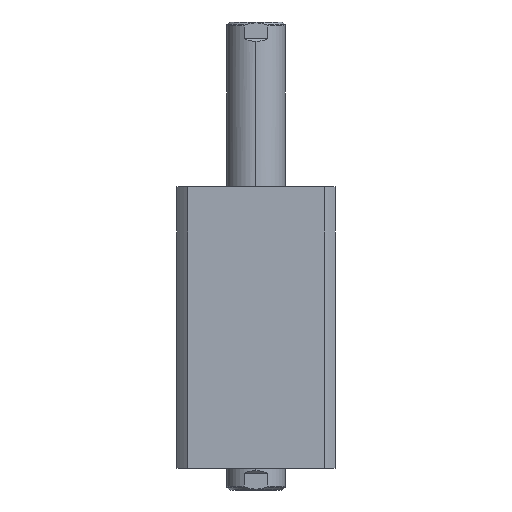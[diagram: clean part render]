
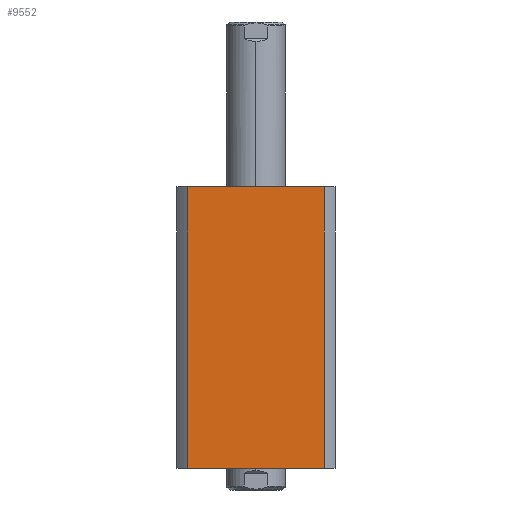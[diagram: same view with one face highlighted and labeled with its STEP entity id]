
A CAD part, left-side view. The second image highlights one B-rep face of the part: STEP entity #9552.
In plain terms, the highlighted planar face has unit normal (-1, 0, 0).
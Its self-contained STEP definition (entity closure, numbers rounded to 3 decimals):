
#905 = CARTESIAN_POINT ( 'NONE',  ( -47., -40.435, 300. ) ) ;
#1217 = DIRECTION ( 'NONE',  ( 0., -1., 0. ) ) ;
#1892 = DIRECTION ( 'NONE',  ( 0., -1., 0. ) ) ;
#2221 = PLANE ( 'NONE',  #14901 ) ;
#2578 = CARTESIAN_POINT ( 'NONE',  ( -47., 40.435, 0. ) ) ;
#3661 = DIRECTION ( 'NONE',  ( 0., 1., 0. ) ) ;
#5278 = CARTESIAN_POINT ( 'NONE',  ( -47., 40.435, 300. ) ) ;
#5646 = VERTEX_POINT ( 'NONE', #11392 ) ;
#6111 = ORIENTED_EDGE ( 'NONE', *, *, #13353, .F. ) ;
#6342 = ORIENTED_EDGE ( 'NONE', *, *, #7011, .F. ) ;
#6711 = VERTEX_POINT ( 'NONE', #2578 ) ;
#7011 = EDGE_CURVE ( 'NONE', #5646, #12977, #17784, .T. ) ;
#7412 = EDGE_CURVE ( 'NONE', #12977, #11279, #8800, .T. ) ;
#8800 = LINE ( 'NONE', #905, #12210 ) ;
#8954 = CARTESIAN_POINT ( 'NONE',  ( -47., 47., 167. ) ) ;
#9262 = LINE ( 'NONE', #9709, #10610 ) ;
#9282 = CARTESIAN_POINT ( 'NONE',  ( -47., 47., 167. ) ) ;
#9393 = DIRECTION ( 'NONE',  ( 0., 0., -1. ) ) ;
#9546 = CARTESIAN_POINT ( 'NONE',  ( -47., -40.435, 167. ) ) ;
#9552 = ADVANCED_FACE ( 'NONE', ( #16433 ), #2221, .F. ) ;
#9672 = ORIENTED_EDGE ( 'NONE', *, *, #7412, .F. ) ;
#9709 = CARTESIAN_POINT ( 'NONE',  ( -47., 47., 0. ) ) ;
#10610 = VECTOR ( 'NONE', #1217, 1000. ) ;
#10834 = ORIENTED_EDGE ( 'NONE', *, *, #17851, .T. ) ;
#11279 = VERTEX_POINT ( 'NONE', #14303 ) ;
#11392 = CARTESIAN_POINT ( 'NONE',  ( -47., 40.435, 167. ) ) ;
#12182 = DIRECTION ( 'NONE',  ( 1., 0., 0. ) ) ;
#12210 = VECTOR ( 'NONE', #9393, 1000. ) ;
#12977 = VERTEX_POINT ( 'NONE', #9546 ) ;
#13076 = VECTOR ( 'NONE', #13830, 1000. ) ;
#13353 = EDGE_CURVE ( 'NONE', #6711, #5646, #16913, .T. ) ;
#13830 = DIRECTION ( 'NONE',  ( 0., 0., 1. ) ) ;
#14303 = CARTESIAN_POINT ( 'NONE',  ( -47., -40.435, 0. ) ) ;
#14901 = AXIS2_PLACEMENT_3D ( 'NONE', #9282, #12182, #3661 ) ;
#15611 = EDGE_LOOP ( 'NONE', ( #9672, #6342, #6111, #10834 ) ) ;
#16433 = FACE_OUTER_BOUND ( 'NONE', #15611, .T. ) ;
#16913 = LINE ( 'NONE', #5278, #13076 ) ;
#17784 = LINE ( 'NONE', #8954, #18239 ) ;
#17851 = EDGE_CURVE ( 'NONE', #6711, #11279, #9262, .T. ) ;
#18239 = VECTOR ( 'NONE', #1892, 1000. ) ;
